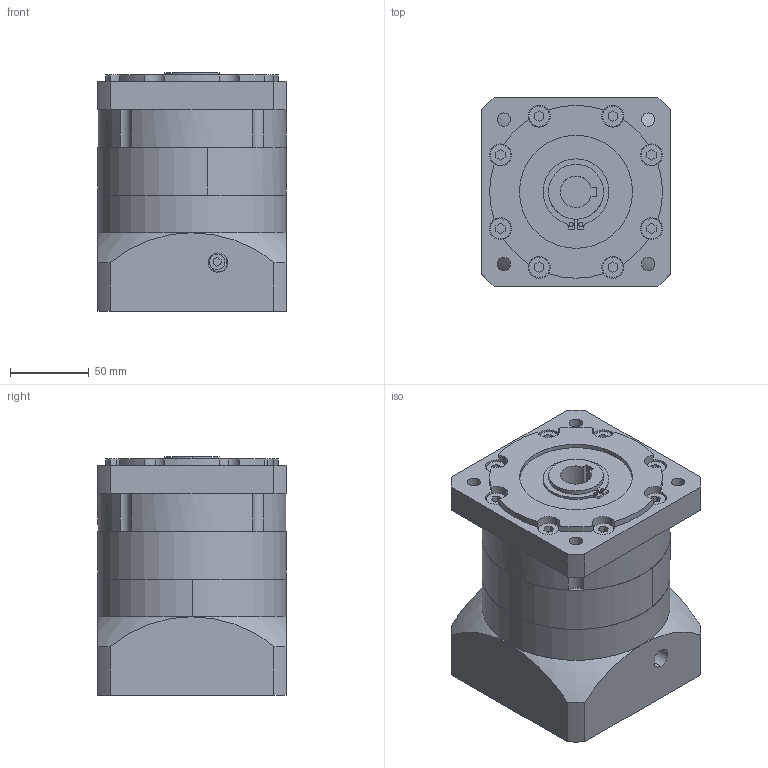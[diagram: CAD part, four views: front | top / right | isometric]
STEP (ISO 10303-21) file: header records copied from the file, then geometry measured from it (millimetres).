
FILE_DESCRIPTION (( 'STEP AP203' ), '1' );
FILE_NAME ('PLB120-L1-19-95-130.STEP', '2022-07-21T09:33:34', ( 'Windows User' ), ( 'P R C' ), 'SwSTEP 2.0', 'SolidWorks 2016', '' );
FILE_SCHEMA (( 'CONFIG_CONTROL_DESIGN' ));
Length unit declared in the file: millimetre
Products named in the file (7): 囀鞠褒蹟佪 M6x20; PBF120 蟀諉啣-95-M8-130-LR57; PBF120 κｳﾝﾈｦ-ﾓﾅｻｯ_ﾒｻｼｶﾄﾚｳﾝﾈｦ; PBF120 奻屳唳-謂怀堤-20-B6; PBF120 狟屳唳-19; 粣創-6007 40x68x15; PLB120-L1-19-95-130
Assembly tree (6 placements, depth 2):
  PLB120-L1-19-95-130
    囀鞠褒蹟佪 M6x20
    PBF120 蟀諉啣-95-M8-130-LR57
    PBF120 κｳﾝﾈｦ-ﾓﾅｻｯ_ﾒｻｼｶﾄﾚｳﾝﾈｦ
    PBF120 奻屳唳-謂怀堤-20-B6
    PBF120 狟屳唳-19
    粣創-6007 40x68x15
Bounding box: 120 x 120 x 152 mm (x, y, z)
Volume: 1652903.7 mm3; surface area: 233162.1 mm2
Topology: 6 solids, 14 shells, 1124 faces, 3038 edges, 2007 vertices
Faces by surface type: plane 596, cylinder 214, bspline 158, sphere 94, torus 52, cone 10
Entity records: 46590 total; most frequent: CARTESIAN_POINT 18619, ORIENTED_EDGE 6048, DIRECTION 5083, EDGE_CURVE 3024, VERTEX_POINT 2003, AXIS2_PLACEMENT_3D 1790, LINE 1503, VECTOR 1503
